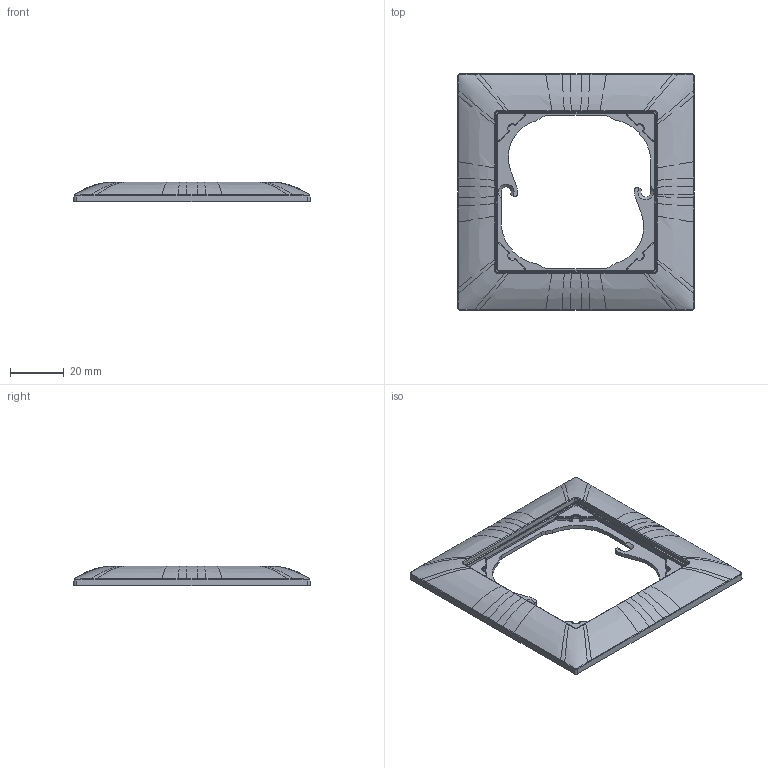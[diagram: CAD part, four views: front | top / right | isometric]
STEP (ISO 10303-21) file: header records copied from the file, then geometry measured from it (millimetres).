
FILE_DESCRIPTION((''),'2;1');
FILE_NAME('0KOMBFMI1X161_ASM','2022-05-10T18:39:02',('SESA652142'),('Schneider-Electric'),'CREO PARAMETRIC BY PTC INC, 2019471','CREO PARAMETRIC BY PTC INC, 2019471','');
FILE_SCHEMA(('AUTOMOTIVE_DESIGN { 1 0 10303 214 1 1 1 1 }'));
Products named in the file (6): 210929_MIG36_1; 220000_1_1; 220000_1_2; 220000_1_ASM; 0KOMBFMI1X161_ASM_1_ASM; 0KOMBFMI1X161_ASM
Assembly tree (5 placements, depth 4):
  0KOMBFMI1X161_ASM
    0KOMBFMI1X161_ASM_1_ASM
      210929_MIG36_1
      220000_1_ASM
        220000_1_1
        220000_1_2
Bounding box: 88 x 88 x 7.29 mm (x, y, z)
Volume: 14386.9 mm3; surface area: 18489.7 mm2
Topology: 3 solids, 3 shells, 1248 faces, 3309 edges, 2076 vertices
Faces by surface type: cylinder 395, bspline 291, plane 273, extrusion 227, cone 26, torus 20, sphere 16
Entity records: 66491 total; most frequent: CARTESIAN_POINT 39161, ORIENTED_EDGE 6568, DIRECTION 3961, EDGE_CURVE 3284, VERTEX_POINT 2076, B_SPLINE_CURVE_WITH_KNOTS 1706, VECTOR 1593, LINE 1366
